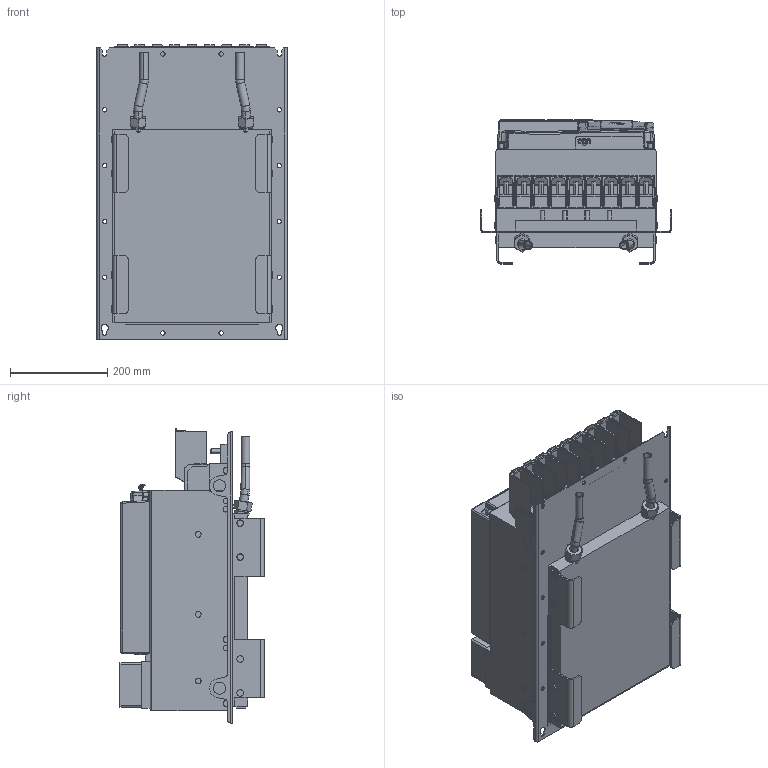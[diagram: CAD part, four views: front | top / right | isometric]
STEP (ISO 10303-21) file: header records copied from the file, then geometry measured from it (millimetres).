
FILE_DESCRIPTION (( 'STEP AP214' ), '1' );
FILE_NAME ('F6-7 TK5-A010.STEP', '2023-11-20T09:39:51', ( '' ), ( '' ), 'SwSTEP 2.0', 'SolidWorks 2022', '' );
FILE_SCHEMA (( 'AUTOMOTIVE_DESIGN' ));
Length unit declared in the file: millimetre
Products named in the file (13): 10045475_000_Gehäusebaugruppe F6-7 (Kundenmodell); 10043622_000_70F6 Klemme (Kundenmodell); Kundenmodell^10044643_000; 10078335_000_Leistungsteil F6-7 TW5 (Kundenmodell); Kundenmodell^10043622_000; 10061502_000_Deckel (Kundenmodell); Kundenmodell^10059764_000; Kundenmodell ohne Zubehör^10078335_000; Kundenmodell^10045475_000_Gehäusebaugruppe ohne Lüfterkarte; 10059764_000_Blindabdeckung (Kundenmodell); F6-7 TK5-A010; 10044643_000_Kundenmodell; Kundenmodell^10061502_000
Assembly tree (12 placements, depth 4):
  F6-7 TK5-A010
    10078335_000_Leistungsteil F6-7 TW5 (Kundenmodell)
      10043622_000_70F6 Klemme (Kundenmodell)
        Kundenmodell^10043622_000
      Kundenmodell ohne Zubehör^10078335_000
    10045475_000_Gehäusebaugruppe F6-7 (Kundenmodell)
      10061502_000_Deckel (Kundenmodell)
        Kundenmodell^10061502_000
      Kundenmodell^10045475_000_Gehäusebaugruppe ohne Lüfterkarte
    10044643_000_Kundenmodell
      10059764_000_Blindabdeckung (Kundenmodell)
        Kundenmodell^10059764_000
      Kundenmodell^10044643_000
Bounding box: 392 x 296.9 x 606.26 mm (x, y, z)
Volume: 41130304.5 mm3; surface area: 2138666.7 mm2
Topology: 12 solids, 14 shells, 3277 faces, 8381 edges, 5148 vertices
Faces by surface type: plane 1617, cylinder 995, bspline 281, sphere 172, cone 121, torus 91
Entity records: 105720 total; most frequent: CARTESIAN_POINT 28479, ORIENTED_EDGE 16542, DIRECTION 15270, EDGE_CURVE 8271, VERTEX_POINT 5145, LINE 5130, VECTOR 5130, AXIS2_PLACEMENT_3D 5070
